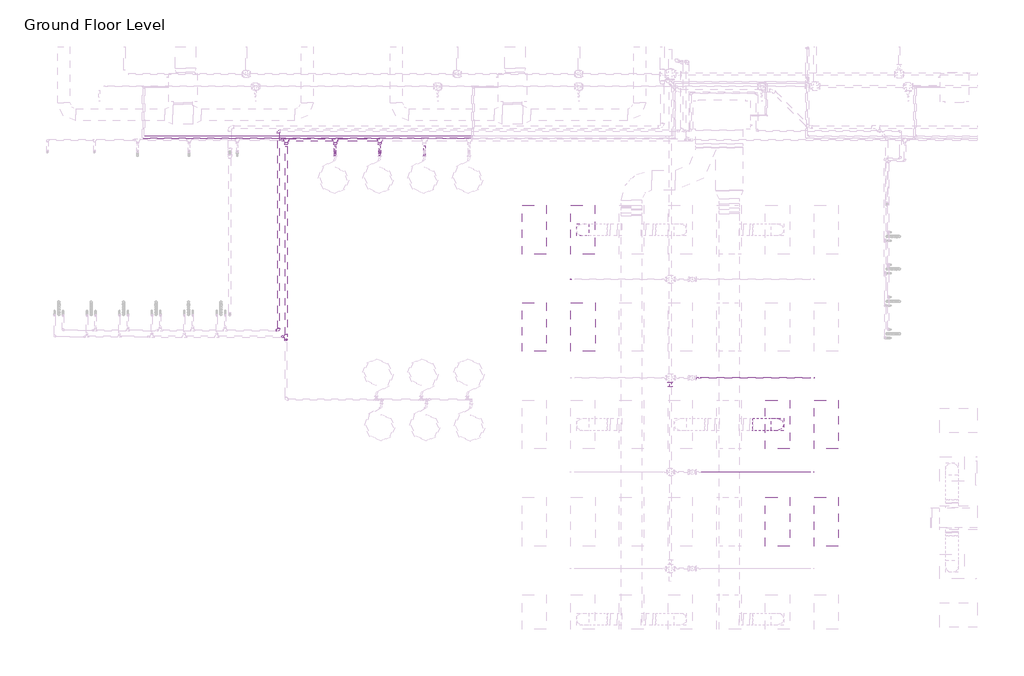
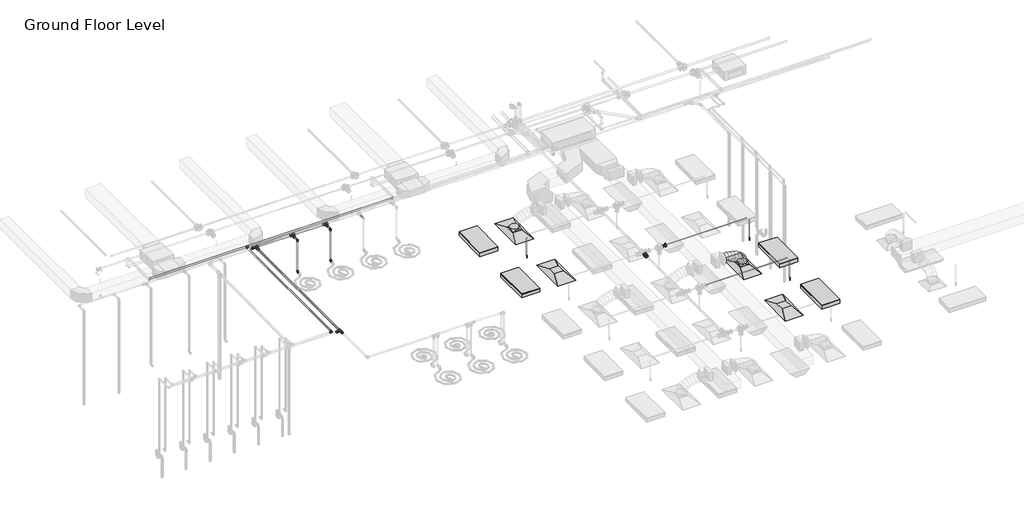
# One storey, part 47 of 73: 19 pipe segments, 18 pipe fittings, 4 air terminals, 4 light fixtures, 3 fire suppression terminals, 2 duct fittings, 1 duct segment.
"""IFC4 building model written with IfcOpenShell, lengths in millimetres."""

from ifc_helpers import new_model, si_unit, point, frame, frame_2d, origin, place, context, project, spatial, circle_curve, ellipse_curve, trimmed, segment, composite_curve, outline, extrude, transform, mapped, element, save
from ifc_brep_helpers import plane_surface, cylinder_surface, advanced_brep
from components import m_return_diffuser_1200x600_1200_x_600_face_300_x_300_d1983ef6, m_rectangular_to_round_transition_angle_45_degree_641efff0, m_sprinkler_dry_pendent_hosted_15_mm_dry_pendent_9bda8e11, m_troffer_light_parabolic_rectangular1_0600x1200mm_4_lamp_86473d4a, m_reducer_flanged_cs_class_150_standard_d42b2106, m_reducer_flanged_cs_class_150_standard_564df86d, standard_517a5a8d, standard_cd25fed3, standard_f1337950, standard_5079833c, standard_92e3b147, standard_bbae78af, standard_69e4ce0e, standard_a995ec02

model = new_model("IFC4")

# Units and contexts
model_context = context("Model", 3, world=origin())
ifc_project = project(units=[si_unit("LENGTHUNIT", "METRE", prefix="MILLI")], contexts=[model_context])

# Site, building, storey
site = spatial("IfcSite", under=ifc_project)
building = spatial("IfcBuilding", under=site)
storey = spatial("IfcBuildingStorey", under=building, Name="Ground Floor Level", Elevation=900.0)

# Air terminals
placement = place(None, origin())
m_return_diffuser_1200x600_1200_x_600_face_300_x_300_shape = m_return_diffuser_1200x600_1200_x_600_face_300_x_300_d1983ef6(model_context)
element("IfcAirTerminal", 1, ObjectType="M_Return Diffuser 1200x600 : 1200 x 600 Face 300 x 300 Connection", at=placement, inside=storey, context=model_context, shape_type="MappedRepresentation", body=[
    mapped(m_return_diffuser_1200x600_1200_x_600_face_300_x_300_shape, transform((-8137.2327605, 8835.2153534, 3650.0), x_axis=(0.0, 1.0, 0.0), y_axis=(-1.0, 0.0, 0.0), z_axis=(0.0, 0.0, 1.0))),
])
element("IfcAirTerminal", 2, ObjectType="M_Return Diffuser 1200x600 : 1200 x 600 Face 300 x 300 Connection", at=placement, inside=storey, context=model_context, shape_type="MappedRepresentation", body=[
    mapped(m_return_diffuser_1200x600_1200_x_600_face_300_x_300_shape, transform((-3337.2327605, 4035.2153534, 3650.0), x_axis=(0.0, 1.0, 0.0), y_axis=(-1.0, 0.0, 0.0), z_axis=(0.0, 0.0, 1.0))),
])
element("IfcAirTerminal", 3, ObjectType="M_Supply Diffuser 1200x600 : 1200 x 600 Face 300 x 300 Connection", at=placement, inside=storey, context=model_context, shape_type="MappedRepresentation", body=[
    mapped(m_return_diffuser_1200x600_1200_x_600_face_300_x_300_shape, transform((-8142.6846929, 11235.2153534, 3650.0), x_axis=(0.0, 1.0, 0.0), y_axis=(-1.0, 0.0, 0.0), z_axis=(0.0, 0.0, 1.0))),
])
element("IfcAirTerminal", 4, ObjectType="M_Supply Diffuser 1200x600 : 1200 x 600 Face 300 x 300 Connection", at=placement, inside=storey, context=model_context, shape_type="MappedRepresentation", body=[
    mapped(m_return_diffuser_1200x600_1200_x_600_face_300_x_300_shape, transform((-3337.2327605, 6435.2153534, 3650.0), x_axis=(0.0, 1.0, 0.0), y_axis=(-1.0, 0.0, 0.0), z_axis=(0.0, 0.0, 1.0))),
])

# Duct fittings
m_rectangular_to_round_transition_angle_45_degree_shape = m_rectangular_to_round_transition_angle_45_degree_641efff0(model_context)
element("IfcDuctFitting", 5, ObjectType="M_Rectangular to Round Transition - Angle : 45 Degree", at=placement, inside=storey, context=model_context, shape_type="MappedRepresentation", body=[
    mapped(m_rectangular_to_round_transition_angle_45_degree_shape, transform((-8142.6846929, 11235.2153534, 3751.6), x_axis=(0.0, 0.0, 1.0), y_axis=(-1.0, 0.0, 0.0), z_axis=(0.0, -1.0, 0.0))),
])
element("IfcDuctFitting", 6, ObjectType="M_Rectangular to Round Transition - Angle : 45 Degree", at=placement, inside=storey, context=model_context, shape_type="MappedRepresentation", body=[
    mapped(m_rectangular_to_round_transition_angle_45_degree_shape, transform((-3337.2327605, 6435.2153534, 3751.6), x_axis=(0.0, 0.0, 1.0), y_axis=(-1.0, 0.0, 0.0), z_axis=(0.0, -1.0, 0.0))),
])

# Duct segment
element("IfcDuctSegment", 7, ObjectType="Flex - Round", at=placement, inside=storey, context=model_context, shape_type="AdvancedBrep", body=[
    advanced_brep(
    [(-3187.2327605, 6435.2153534, 3826.6), (-3337.2327605, 6285.2153534, 3826.6), (-3487.2327605, 6435.2153534, 3826.6), (-3337.2327605, 6585.2153534, 3826.6), (-3187.2327605, 6435.2153534, 3882.1255581), (-3337.2327605, 6285.2153534, 3857.3046173), (-3487.2327605, 6435.2153534, 3832.4836764), (-3337.2327605, 6585.2153534, 3857.3046173), (-3218.4253034, 6435.2153534, 3973.7974983), (-3353.8937102, 6285.2153534, 3906.2695763), (-3489.362117, 6435.2153534, 3838.7416543), (-3353.8937102, 6585.2153534, 3906.2695763), (-3288.1573657, 6435.2153534, 4076.409352), (-3399.7704918, 6285.2153534, 3973.7779999), (-3511.3836179, 6435.2153534, 3871.1466478), (-3399.7704918, 6585.2153534, 3973.7779999), (-3386.082926, 6435.2153534, 4155.7082221), (-3468.7040039, 6285.2153534, 4029.599479), (-3551.3250817, 6435.2153534, 3903.4907359), (-3468.7040039, 6585.2153534, 4029.599479), (-3494.825089, 6435.2153534, 4212.2244369), (-3554.535145, 6285.2153534, 4074.2082221), (-3614.2452011, 6435.2153534, 3936.1920073), (-3554.535145, 6585.2153534, 4074.2082221), (-3609.1145825, 6435.2153534, 4252.3095878), (-3651.104814, 6285.2153534, 4108.0784374), (-3693.0950455, 6435.2153534, 3963.847287), (-3651.104814, 6585.2153534, 4108.0784374), (-3724.8435514, 6435.2153534, 4279.3180942), (-3752.2539093, 6285.2153534, 4131.6843333), (-3779.6642673, 6435.2153534, 3984.0505724), (-3752.2539093, 6585.2153534, 4131.6843333), (-3837.5009499, 6435.2153534, 4294.9499053), (-3851.8233297, 6285.2153534, 4145.500118), (-3866.1457095, 6435.2153534, 3996.0503308), (-3851.8233297, 6585.2153534, 4145.500118), (-3932.3208261, 6435.2153534, 4300.0), (-3936.312488, 6285.2153534, 4150.0), (-3940.3041499, 6435.2153534, 4000.0), (-3936.312488, 6585.2153534, 4150.0), (-3943.6539738, 6435.2153534, 4300.0), (-3943.6539738, 6585.2153534, 4150.0), (-3943.6539738, 6435.2153534, 4000.0), (-3943.6539738, 6285.2153534, 4150.0)],
    [
        (0, 1, circle_curve(frame((-3337.2327605, 6435.2153534, 3826.6), z_axis=(0.0, 0.0, -1.0), x_axis=(1.0, 0.0, 0.0)), 150.0)),
        (1, 2, circle_curve(frame((-3337.2327605, 6435.2153534, 3826.6), z_axis=(0.0, 0.0, -1.0), x_axis=(1.0, 0.0, 0.0)), 150.0)),
        (2, 3, circle_curve(frame((-3337.2327605, 6435.2153534, 3826.6), z_axis=(0.0, 0.0, -1.0), x_axis=(1.0, 0.0, 0.0)), 150.0)),
        (3, 0, circle_curve(frame((-3337.2327605, 6435.2153534, 3826.6), z_axis=(0.0, 0.0, -1.0), x_axis=(1.0, 0.0, 0.0)), 150.0)),
        (0, 4),
        (4, 5, ellipse_curve(frame((-3337.2327605, 6435.2153534, 3857.3046173), z_axis=(0.16325299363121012, 0.0, -0.9865842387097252), x_axis=(-0.9865842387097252, 0.0, -0.16325299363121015)), 152.0397287, 150.0)),
        (5, 1),
        (5, 6, ellipse_curve(frame((-3337.2327605, 6435.2153534, 3857.3046173), z_axis=(0.16325299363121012, 0.0, -0.9865842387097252), x_axis=(-0.9865842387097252, 0.0, -0.16325299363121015)), 152.0397287, 150.0)),
        (6, 2),
        (6, 7, ellipse_curve(frame((-3337.2327605, 6435.2153534, 3857.3046173), z_axis=(0.16325299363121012, 0.0, -0.9865842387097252), x_axis=(-0.9865842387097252, 0.0, -0.16325299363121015)), 152.0397287, 150.0)),
        (7, 3),
        (7, 4, ellipse_curve(frame((-3337.2327605, 6435.2153534, 3857.3046173), z_axis=(0.16325299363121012, 0.0, -0.9865842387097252), x_axis=(-0.9865842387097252, 0.0, -0.16325299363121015)), 152.0397287, 150.0)),
        (4, 8),
        (8, 9, ellipse_curve(frame((-3353.8937102, 6435.2153534, 3906.2695763), z_axis=(0.446123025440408, 0.0, -0.894971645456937), x_axis=(-0.8949716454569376, 0.0, -0.44612302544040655)), 151.3661438, 150.0)),
        (9, 5),
        (9, 10, ellipse_curve(frame((-3353.8937102, 6435.2153534, 3906.2695763), z_axis=(0.446123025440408, 0.0, -0.894971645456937), x_axis=(-0.8949716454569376, 0.0, -0.44612302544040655)), 151.3661438, 150.0)),
        (10, 6),
        (10, 11, ellipse_curve(frame((-3353.8937102, 6435.2153534, 3906.2695763), z_axis=(0.446123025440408, 0.0, -0.894971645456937), x_axis=(-0.8949716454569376, 0.0, -0.44612302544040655)), 151.3661438, 150.0)),
        (11, 7),
        (11, 8, ellipse_curve(frame((-3353.8937102, 6435.2153534, 3906.2695763), z_axis=(0.446123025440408, 0.0, -0.894971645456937), x_axis=(-0.8949716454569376, 0.0, -0.44612302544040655)), 151.3661438, 150.0)),
        (8, 12),
        (12, 13, ellipse_curve(frame((-3399.7704918, 6435.2153534, 3973.7779999), z_axis=(0.6768681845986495, 0.0, -0.7361042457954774), x_axis=(-0.7361042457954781, 0.0, -0.6768681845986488)), 151.626793, 150.0)),
        (13, 9),
        (13, 14, ellipse_curve(frame((-3399.7704918, 6435.2153534, 3973.7779999), z_axis=(0.6768681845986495, 0.0, -0.7361042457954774), x_axis=(-0.7361042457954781, 0.0, -0.6768681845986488)), 151.626793, 150.0)),
        (14, 10),
        (14, 15, ellipse_curve(frame((-3399.7704918, 6435.2153534, 3973.7779999), z_axis=(0.6768681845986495, 0.0, -0.7361042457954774), x_axis=(-0.7361042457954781, 0.0, -0.6768681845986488)), 151.626793, 150.0)),
        (15, 11),
        (15, 12, ellipse_curve(frame((-3399.7704918, 6435.2153534, 3973.7779999), z_axis=(0.6768681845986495, 0.0, -0.7361042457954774), x_axis=(-0.7361042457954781, 0.0, -0.6768681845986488)), 151.626793, 150.0)),
        (12, 16),
        (16, 17, ellipse_curve(frame((-3468.7040039, 6435.2153534, 4029.599479), z_axis=(0.8364668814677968, 0.0, -0.5480174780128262), x_axis=(-0.5480174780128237, 0.0, -0.8364668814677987)), 150.7635818, 150.0)),
        (17, 13),
        (17, 18, ellipse_curve(frame((-3468.7040039, 6435.2153534, 4029.599479), z_axis=(0.8364668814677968, 0.0, -0.5480174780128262), x_axis=(-0.5480174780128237, 0.0, -0.8364668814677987)), 150.7635818, 150.0)),
        (18, 14),
        (18, 19, ellipse_curve(frame((-3468.7040039, 6435.2153534, 4029.599479), z_axis=(0.8364668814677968, 0.0, -0.5480174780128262), x_axis=(-0.5480174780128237, 0.0, -0.8364668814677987)), 150.7635818, 150.0)),
        (19, 15),
        (19, 16, ellipse_curve(frame((-3468.7040039, 6435.2153534, 4029.599479), z_axis=(0.8364668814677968, 0.0, -0.5480174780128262), x_axis=(-0.5480174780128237, 0.0, -0.8364668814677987)), 150.7635818, 150.0)),
        (16, 20),
        (20, 21, ellipse_curve(frame((-3554.535145, 6435.2153534, 4074.2082221), z_axis=(0.9177907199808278, 0.0, -0.3970644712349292), x_axis=(-0.3970644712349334, 0.0, -0.917790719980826)), 150.378743, 150.0)),
        (21, 17),
        (21, 22, ellipse_curve(frame((-3554.535145, 6435.2153534, 4074.2082221), z_axis=(0.9177907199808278, 0.0, -0.3970644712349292), x_axis=(-0.3970644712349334, 0.0, -0.917790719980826)), 150.378743, 150.0)),
        (22, 18),
        (22, 23, ellipse_curve(frame((-3554.535145, 6435.2153534, 4074.2082221), z_axis=(0.9177907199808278, 0.0, -0.3970644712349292), x_axis=(-0.3970644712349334, 0.0, -0.917790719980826)), 150.378743, 150.0)),
        (23, 19),
        (23, 20, ellipse_curve(frame((-3554.535145, 6435.2153534, 4074.2082221), z_axis=(0.9177907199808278, 0.0, -0.3970644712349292), x_axis=(-0.3970644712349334, 0.0, -0.917790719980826)), 150.378743, 150.0)),
        (20, 24),
        (24, 25, ellipse_curve(frame((-3651.104814, 6435.2153534, 4108.0784374), z_axis=(0.9601380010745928, 0.0, -0.2795264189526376), x_axis=(-0.2795264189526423, 0.0, -0.9601380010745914)), 150.2191875, 150.0)),
        (25, 21),
        (25, 26, ellipse_curve(frame((-3651.104814, 6435.2153534, 4108.0784374), z_axis=(0.9601380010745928, 0.0, -0.2795264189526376), x_axis=(-0.2795264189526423, 0.0, -0.9601380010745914)), 150.2191875, 150.0)),
        (26, 22),
        (26, 27, ellipse_curve(frame((-3651.104814, 6435.2153534, 4108.0784374), z_axis=(0.9601380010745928, 0.0, -0.2795264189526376), x_axis=(-0.2795264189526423, 0.0, -0.9601380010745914)), 150.2191875, 150.0)),
        (27, 23),
        (27, 24, ellipse_curve(frame((-3651.104814, 6435.2153534, 4108.0784374), z_axis=(0.9601380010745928, 0.0, -0.2795264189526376), x_axis=(-0.2795264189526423, 0.0, -0.9601380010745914)), 150.2191875, 150.0)),
        (24, 28),
        (28, 29, ellipse_curve(frame((-3752.2539093, 6435.2153534, 4131.6843333), z_axis=(0.9831975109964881, 0.0, -0.18254493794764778), x_axis=(-0.18254493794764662, 0.0, -0.9831975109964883)), 150.1567684, 150.0)),
        (29, 25),
        (29, 30, ellipse_curve(frame((-3752.2539093, 6435.2153534, 4131.6843333), z_axis=(0.9831975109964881, 0.0, -0.18254493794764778), x_axis=(-0.18254493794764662, 0.0, -0.9831975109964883)), 150.1567684, 150.0)),
        (30, 26),
        (30, 31, ellipse_curve(frame((-3752.2539093, 6435.2153534, 4131.6843333), z_axis=(0.9831975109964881, 0.0, -0.18254493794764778), x_axis=(-0.18254493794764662, 0.0, -0.9831975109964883)), 150.1567684, 150.0)),
        (31, 27),
        (31, 28, ellipse_curve(frame((-3752.2539093, 6435.2153534, 4131.6843333), z_axis=(0.9831975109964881, 0.0, -0.18254493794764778), x_axis=(-0.18254493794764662, 0.0, -0.9831975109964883)), 150.1567684, 150.0)),
        (28, 32),
        (32, 33, ellipse_curve(frame((-3851.8233297, 6435.2153534, 4145.500118), z_axis=(0.9954393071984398, 0.0, -0.09539698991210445), x_axis=(-0.09539698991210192, 0.0, -0.99543930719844)), 150.1345046, 150.0)),
        (33, 29),
        (33, 34, ellipse_curve(frame((-3851.8233297, 6435.2153534, 4145.500118), z_axis=(0.9954393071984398, 0.0, -0.09539698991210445), x_axis=(-0.09539698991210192, 0.0, -0.99543930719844)), 150.1345046, 150.0)),
        (34, 30),
        (34, 35, ellipse_curve(frame((-3851.8233297, 6435.2153534, 4145.500118), z_axis=(0.9954393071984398, 0.0, -0.09539698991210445), x_axis=(-0.09539698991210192, 0.0, -0.99543930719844)), 150.1345046, 150.0)),
        (35, 31),
        (35, 32, ellipse_curve(frame((-3851.8233297, 6435.2153534, 4145.500118), z_axis=(0.9954393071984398, 0.0, -0.09539698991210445), x_axis=(-0.09539698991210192, 0.0, -0.99543930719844)), 150.1345046, 150.0)),
        (32, 36),
        (36, 37, ellipse_curve(frame((-3936.312488, 6435.2153534, 4150.0), z_axis=(0.9996461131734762, 0.0, -0.02660166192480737), x_axis=(-0.026601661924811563, 0.0, -0.9996461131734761)), 150.0531018, 150.0)),
        (37, 33),
        (37, 38, ellipse_curve(frame((-3936.312488, 6435.2153534, 4150.0), z_axis=(0.9996461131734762, 0.0, -0.02660166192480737), x_axis=(-0.026601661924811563, 0.0, -0.9996461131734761)), 150.0531018, 150.0)),
        (38, 34),
        (38, 39, ellipse_curve(frame((-3936.312488, 6435.2153534, 4150.0), z_axis=(0.9996461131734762, 0.0, -0.02660166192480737), x_axis=(-0.026601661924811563, 0.0, -0.9996461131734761)), 150.0531018, 150.0)),
        (39, 35),
        (39, 36, ellipse_curve(frame((-3936.312488, 6435.2153534, 4150.0), z_axis=(0.9996461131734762, 0.0, -0.02660166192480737), x_axis=(-0.026601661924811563, 0.0, -0.9996461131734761)), 150.0531018, 150.0)),
        (40, 41, circle_curve(frame((-3943.6539738, 6435.2153534, 4150.0), z_axis=(-1.0, 0.0, 0.0), x_axis=(0.0, 0.0, 1.0)), 150.0)),
        (41, 42, circle_curve(frame((-3943.6539738, 6435.2153534, 4150.0), z_axis=(-1.0, 0.0, 0.0), x_axis=(0.0, 0.0, 1.0)), 150.0)),
        (42, 43, circle_curve(frame((-3943.6539738, 6435.2153534, 4150.0), z_axis=(-1.0, 0.0, 0.0), x_axis=(0.0, 0.0, 1.0)), 150.0)),
        (43, 40, circle_curve(frame((-3943.6539738, 6435.2153534, 4150.0), z_axis=(-1.0, 0.0, 0.0), x_axis=(0.0, 0.0, 1.0)), 150.0)),
        (36, 40),
        (43, 37),
        (42, 38),
        (41, 39),
    ],
    [
        plane_surface(frame((-3337.2327605, 6285.2153534, 3826.6), z_axis=(0.0, 0.0, -1.0), x_axis=(1.0, 0.0, 0.0))),
        cylinder_surface(frame((-3337.2327605, 6435.2153534, 3826.6), z_axis=(0.0, 0.0, -1.0), x_axis=(1.0, 0.0, 0.0)), 150.0),
        cylinder_surface(frame((-3337.2327605, 6435.2153534, 3857.3046173), z_axis=(0.3221256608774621, 0.0, -0.9466969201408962), x_axis=(0.9466969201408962, 0.0, 0.3221256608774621)), 150.0),
        cylinder_surface(frame((-3353.8937102, 6435.2153534, 3906.2695763), z_axis=(0.5620674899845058, 0.0, -0.8270913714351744), x_axis=(0.8270913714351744, 0.0, 0.5620674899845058)), 150.0),
        cylinder_surface(frame((-3399.7704918, 6435.2153534, 3973.7779999), z_axis=(0.7771447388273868, 0.0, -0.6293219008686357), x_axis=(0.6293219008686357, 0.0, 0.7771447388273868)), 150.0),
        cylinder_surface(frame((-3468.7040039, 6435.2153534, 4029.599479), z_axis=(0.8873160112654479, 0.0, -0.4611618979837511), x_axis=(0.4611618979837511, 0.0, 0.8873160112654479)), 150.0),
        cylinder_surface(frame((-3554.535145, 6435.2153534, 4074.2082221), z_axis=(0.9436423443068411, 0.0, -0.3309669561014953), x_axis=(0.3309669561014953, 0.0, 0.9436423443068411)), 150.0),
        cylinder_surface(frame((-3651.104814, 6435.2153534, 4108.0784374), z_axis=(0.973831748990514, 0.0, -0.22727015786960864), x_axis=(0.22727015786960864, 0.0, 0.973831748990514)), 150.0),
        cylinder_surface(frame((-3752.2539093, 6435.2153534, 4131.6843333), z_axis=(0.9905102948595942, 0.0, -0.1374385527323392), x_axis=(0.1374385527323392, 0.0, 0.9905102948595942)), 150.0),
        cylinder_surface(frame((-3851.8233297, 6435.2153534, 4145.500118), z_axis=(0.9985847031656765, 0.0, -0.05318449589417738), x_axis=(0.05318449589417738, 0.0, 0.9985847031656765)), 150.0),
        plane_surface(frame((-3943.6539738, 6435.2153534, 4000.0), z_axis=(-1.0, 0.0, 0.0), x_axis=(0.0, -1.0, 0.0))),
        cylinder_surface(frame((-3936.312488, 6435.2153534, 4150.0), z_axis=(1.0, 0.0, 0.0), x_axis=(0.0, 0.0, 1.0)), 150.0),
    ],
    [
        (0, [[1, 2, 3, 4]]),
        (1, [[-1, 5, 6, 7]]),
        (1, [[-2, -7, 8, 9]]),
        (1, [[-3, -9, 10, 11]]),
        (1, [[-4, -11, 12, -5]]),
        (2, [[-6, 13, 14, 15]]),
        (2, [[-8, -15, 16, 17]]),
        (2, [[-10, -17, 18, 19]]),
        (2, [[-12, -19, 20, -13]]),
        (3, [[-14, 21, 22, 23]]),
        (3, [[-16, -23, 24, 25]]),
        (3, [[-18, -25, 26, 27]]),
        (3, [[-20, -27, 28, -21]]),
        (4, [[-22, 29, 30, 31]]),
        (4, [[-24, -31, 32, 33]]),
        (4, [[-26, -33, 34, 35]]),
        (4, [[-28, -35, 36, -29]]),
        (5, [[-30, 37, 38, 39]]),
        (5, [[-32, -39, 40, 41]]),
        (5, [[-34, -41, 42, 43]]),
        (5, [[-36, -43, 44, -37]]),
        (6, [[-38, 45, 46, 47]]),
        (6, [[-40, -47, 48, 49]]),
        (6, [[-42, -49, 50, 51]]),
        (6, [[-44, -51, 52, -45]]),
        (7, [[-46, 53, 54, 55]]),
        (7, [[-48, -55, 56, 57]]),
        (7, [[-50, -57, 58, 59]]),
        (7, [[-52, -59, 60, -53]]),
        (8, [[-54, 61, 62, 63]]),
        (8, [[-56, -63, 64, 65]]),
        (8, [[-58, -65, 66, 67]]),
        (8, [[-60, -67, 68, -61]]),
        (9, [[-62, 69, 70, 71]]),
        (9, [[-64, -71, 72, 73]]),
        (9, [[-66, -73, 74, 75]]),
        (9, [[-68, -75, 76, -69]]),
        (10, [[77, 78, 79, 80]]),
        (11, [[-70, 81, -80, 82]]),
        (11, [[-72, -82, -79, 83]]),
        (11, [[-74, -83, -78, 84]]),
        (11, [[-76, -84, -77, -81]]),
    ],
),
])

# Fire suppression terminals
m_sprinkler_dry_pendent_hosted_15_mm_dry_pendent_shape = m_sprinkler_dry_pendent_hosted_15_mm_dry_pendent_9bda8e11(model_context)
element("IfcFireSuppressionTerminal", 8, ObjectType="M_Sprinkler - Dry - Pendent - Hosted : 15 mm Dry Pendent", at=placement, inside=storey, context=model_context, shape_type="MappedRepresentation", body=[
    mapped(m_sprinkler_dry_pendent_hosted_15_mm_dry_pendent_shape, transform((-8437.2327605, 10013.008259, 3650.0), x_axis=(1.0, 0.0, 0.0), y_axis=(0.0, -1.0, 0.0), z_axis=(0.0, 0.0, -1.0))),
])
element("IfcFireSuppressionTerminal", 9, ObjectType="M_Sprinkler - Dry - Pendent - Hosted : 15 mm Dry Pendent", at=placement, inside=storey, context=model_context, shape_type="MappedRepresentation", body=[
    mapped(m_sprinkler_dry_pendent_hosted_15_mm_dry_pendent_shape, transform((-2437.2327605, 7582.7040742, 3650.0), x_axis=(1.0, 0.0, 0.0), y_axis=(0.0, -1.0, 0.0), z_axis=(0.0, 0.0, -1.0))),
])
element("IfcFireSuppressionTerminal", 10, ObjectType="M_Sprinkler - Dry - Pendent - Hosted : 15 mm Dry Pendent", at=placement, inside=storey, context=model_context, shape_type="MappedRepresentation", body=[
    mapped(m_sprinkler_dry_pendent_hosted_15_mm_dry_pendent_shape, transform((-2437.2327605, 5261.0372753, 3650.0), x_axis=(1.0, 0.0, 0.0), y_axis=(0.0, -1.0, 0.0), z_axis=(0.0, 0.0, -1.0))),
])

# Light fixtures
m_troffer_light_parabolic_rectangular1_0600x1200mm_4_lamp_shape = m_troffer_light_parabolic_rectangular1_0600x1200mm_4_lamp_86473d4a(model_context)
element("IfcLightFixture", 11, ObjectType="M_Troffer Light - Parabolic Rectangular1 : 0600x1200mm(4 Lamp) - 277V 2", at=placement, inside=storey, context=model_context, shape_type="MappedRepresentation", body=[
    mapped(m_troffer_light_parabolic_rectangular1_0600x1200mm_4_lamp_shape, transform((-9396.6986926, 11253.918855, 3650.0), x_axis=(0.0, 1.0, 0.0), y_axis=(-1.0, 0.0, 0.0), z_axis=(0.0, 0.0, 1.0))),
])
element("IfcLightFixture", 12, ObjectType="M_Troffer Light - Parabolic Rectangular1 : 0600x1200mm(4 Lamp) - 277V 2", at=placement, inside=storey, context=model_context, shape_type="MappedRepresentation", body=[
    mapped(m_troffer_light_parabolic_rectangular1_0600x1200mm_4_lamp_shape, transform((-9396.6986926, 8853.918855, 3650.0), x_axis=(0.0, 1.0, 0.0), y_axis=(-1.0, 0.0, 0.0), z_axis=(0.0, 0.0, 1.0))),
])
element("IfcLightFixture", 13, ObjectType="M_Troffer Light - Parabolic Rectangular1 : 0600x1200mm(4 Lamp) - 277V 2", at=placement, inside=storey, context=model_context, shape_type="MappedRepresentation", body=[
    mapped(m_troffer_light_parabolic_rectangular1_0600x1200mm_4_lamp_shape, transform((-2196.6986926, 6453.918855, 3650.0), x_axis=(0.0, 1.0, 0.0), y_axis=(-1.0, 0.0, 0.0), z_axis=(0.0, 0.0, 1.0))),
])
element("IfcLightFixture", 14, ObjectType="M_Troffer Light - Parabolic Rectangular1 : 0600x1200mm(4 Lamp) - 277V 2", at=placement, inside=storey, context=model_context, shape_type="MappedRepresentation", body=[
    mapped(m_troffer_light_parabolic_rectangular1_0600x1200mm_4_lamp_shape, transform((-2196.6986926, 4053.918855, 3650.0), x_axis=(0.0, 1.0, 0.0), y_axis=(-1.0, 0.0, 0.0), z_axis=(0.0, 0.0, 1.0))),
])

# Pipe fittings
m_reducer_flanged_cs_class_150_standard_shape = m_reducer_flanged_cs_class_150_standard_d42b2106(model_context)
element("IfcPipeFitting", 15, ObjectType="M_Reducer - Flanged - CS - Class 150 : Standard", at=placement, inside=storey, context=model_context, shape_type="MappedRepresentation", body=[
    mapped(m_reducer_flanged_cs_class_150_standard_shape, transform((-5336.5241668, 7582.7040742, 4360.0), x_axis=(1.0, 0.0, 0.0), y_axis=(0.0, 1.0, 0.0), z_axis=(0.0, 0.0, 1.0))),
])
m_reducer_flanged_cs_class_150_standard_2_shape = m_reducer_flanged_cs_class_150_standard_564df86d(model_context)
element("IfcPipeFitting", 16, ObjectType="M_Reducer - Flanged - CS - Class 150 : Standard", at=placement, inside=storey, context=model_context, shape_type="MappedRepresentation", body=[
    mapped(m_reducer_flanged_cs_class_150_standard_2_shape, transform((-5978.130502, 7480.7040742, 4360.0), x_axis=(0.0, -1.0, 0.0), y_axis=(1.0, 0.0, 0.0), z_axis=(0.0, 0.0, 1.0))),
])
standard_shape = standard_517a5a8d(model_context)
element("IfcPipeFitting", 17, ObjectType="M_Elbow - CPVC - Sch 40 : Standard", at=placement, inside=storey, context=model_context, shape_type="MappedRepresentation", body=[
    mapped(standard_shape, transform((-14247.2327605, 13150.8347997, 3200.0), x_axis=(0.0, 1.0, 0.0), y_axis=(0.0, 0.0, 1.0), z_axis=(1.0, 0.0, 0.0))),
])
element("IfcPipeFitting", 18, ObjectType="M_Elbow - CPVC - Sch 40 : Standard", at=placement, inside=storey, context=model_context, shape_type="MappedRepresentation", body=[
    mapped(standard_shape, transform((-14247.2327605, 13150.8347997, 4315.0), x_axis=(0.0, 0.0, 1.0), y_axis=(0.0, 1.0, 0.0), z_axis=(-1.0, 0.0, 0.0))),
])
element("IfcPipeFitting", 19, ObjectType="M_Elbow - CPVC - Sch 40 : Standard", at=placement, inside=storey, context=model_context, shape_type="MappedRepresentation", body=[
    mapped(standard_shape, transform((-13147.2327605, 13150.8347997, 4315.0), x_axis=(0.0, 0.0, 1.0), y_axis=(0.0, 1.0, 0.0), z_axis=(-1.0, 0.0, 0.0))),
])
element("IfcPipeFitting", 20, ObjectType="M_Elbow - CPVC - Sch 40 : Standard", at=placement, inside=storey, context=model_context, shape_type="MappedRepresentation", body=[
    mapped(standard_shape, transform((-13147.2327605, 13150.8347997, 3200.0), x_axis=(0.0, 0.0, -1.0), y_axis=(0.0, -1.0, 0.0), z_axis=(-1.0, 0.0, 0.0))),
])
standard_2_shape = standard_cd25fed3(model_context)
element("IfcPipeFitting", 21, ObjectType="M_Tee - CPVC - Sch 40 : Standard", at=placement, inside=storey, context=model_context, shape_type="MappedRepresentation", body=[
    mapped(standard_2_shape, transform((-14247.2327605, 13449.9865561, 4315.0), x_axis=(-1.0, 0.0, 0.0), y_axis=(0.0, 1.0, 0.0), z_axis=(0.0, 0.0, -1.0))),
])
element("IfcPipeFitting", 22, ObjectType="M_Tee - CPVC - Sch 40 : Standard", at=placement, inside=storey, context=model_context, shape_type="MappedRepresentation", body=[
    mapped(standard_2_shape, transform((-13147.2327605, 13449.9865561, 4315.0), x_axis=(-1.0, 0.0, 0.0), y_axis=(0.0, 1.0, 0.0), z_axis=(0.0, 0.0, -1.0))),
])
element("IfcPipeFitting", 23, ObjectType="M_Tee - CPVC - Sch 40 : Standard", at=placement, inside=storey, context=model_context, shape_type="MappedRepresentation", body=[
    mapped(standard_2_shape, transform((-15455.6408298, 13449.9865561, 4315.0), x_axis=(-1.0, 0.0, 0.0), y_axis=(0.0, 1.0, 0.0), z_axis=(0.0, 0.0, -1.0))),
])
standard_3_shape = standard_f1337950(model_context)
element("IfcPipeFitting", 24, ObjectType="M_Coupling Reducing - CPVC - Sch 40 : Standard", at=placement, inside=storey, context=model_context, shape_type="MappedRepresentation", body=[
    mapped(standard_3_shape, transform((-14247.2327605, 13383.3115561, 4315.0), x_axis=(0.0, -1.0, 0.0), y_axis=(1.0, 0.0, 0.0), z_axis=(0.0, 0.0, 1.0))),
])
element("IfcPipeFitting", 25, ObjectType="M_Coupling Reducing - CPVC - Sch 40 : Standard", at=placement, inside=storey, context=model_context, shape_type="MappedRepresentation", body=[
    mapped(standard_3_shape, transform((-13147.2327605, 13383.3115561, 4315.0), x_axis=(0.0, -1.0, 0.0), y_axis=(1.0, 0.0, 0.0), z_axis=(0.0, 0.0, 1.0))),
])
standard_4_shape = standard_5079833c(model_context)
element("IfcPipeFitting", 26, ObjectType="M_Coupling Reducing - CPVC - Sch 40 : Standard", at=placement, inside=storey, context=model_context, shape_type="MappedRepresentation", body=[
    mapped(standard_4_shape, transform((-15522.3158298, 13449.9865561, 4315.0), x_axis=(-1.0, 0.0, 0.0), y_axis=(0.0, -1.0, 0.0), z_axis=(0.0, 0.0, 1.0))),
])
standard_5_shape = standard_92e3b147(model_context)
element("IfcPipeFitting", 27, ObjectType="M_Coupling Reducing - CPVC - Sch 40 : Standard", at=placement, inside=storey, context=model_context, shape_type="MappedRepresentation", body=[
    mapped(standard_5_shape, transform((-15455.6408298, 13383.3115561, 4315.0), x_axis=(0.0, -1.0, 0.0), y_axis=(1.0, 0.0, 0.0), z_axis=(0.0, 0.0, 1.0))),
])
standard_6_shape = standard_bbae78af(model_context)
element("IfcPipeFitting", 28, ObjectType="M_Tee - CPVC - Sch 40 : Standard", at=placement, inside=storey, context=model_context, shape_type="MappedRepresentation", body=[
    mapped(standard_6_shape, transform((-15455.6408298, 8599.9071734, 4315.0), x_axis=(0.0, 1.0, 0.0), y_axis=(1.0, 0.0, 0.0), z_axis=(0.0, 0.0, -1.0))),
])
standard_7_shape = standard_69e4ce0e(model_context)
element("IfcPipeFitting", 29, ObjectType="M_Elbow - CPVC - Sch 40 : Standard", at=placement, inside=storey, context=model_context, shape_type="MappedRepresentation", body=[
    mapped(standard_7_shape, transform((-15642.8173674, 8755.2153534, 4250.0), x_axis=(1.0, 0.0, 0.0), y_axis=(0.0, 1.0, 0.0), z_axis=(0.0, 0.0, 1.0))),
])
element("IfcPipeFitting", 30, ObjectType="M_Elbow - CPVC - Sch 40 : Standard", at=placement, inside=storey, context=model_context, shape_type="MappedRepresentation", body=[
    mapped(standard_7_shape, transform((-15642.8173674, 13675.2153534, 4250.0), x_axis=(-1.0, 0.0, 0.0), y_axis=(0.0, -1.0, 0.0), z_axis=(0.0, 0.0, 1.0))),
])
standard_8_shape = standard_a995ec02(model_context)
element("IfcPipeFitting", 31, ObjectType="M_Coupling Reducing - CPVC - Sch 40 : Standard", at=placement, inside=storey, context=model_context, shape_type="MappedRepresentation", body=[
    mapped(standard_8_shape, transform((-15455.6408298, 8541.1569734, 4315.0), x_axis=(0.0, -1.0, 0.0), y_axis=(1.0, 0.0, 0.0), z_axis=(0.0, 0.0, 1.0))),
])
element("IfcPipeFitting", 32, ObjectType="M_Coupling Reducing - CPVC - Sch 40 : Standard", at=placement, inside=storey, context=model_context, shape_type="MappedRepresentation", body=[
    mapped(standard_8_shape, transform((-15514.3910298, 8599.9071734, 4315.0), x_axis=(-1.0, 0.0, 0.0), y_axis=(0.0, -1.0, 0.0), z_axis=(0.0, 0.0, 1.0))),
])

# Pipe segments
element("IfcPipeSegment", 33, ObjectType="CPVC", at=placement, inside=storey, context=model_context, shape_type="SweptSolid", body=[
    extrude(outline(composite_curve([segment(trimmed(circle_curve(frame_2d((3200.0, -14247.2327605)), 16.7005), [point((3200.0, -14230.5322605))], [point((3216.7005, -14247.2327605))], False, "CARTESIAN"), True, "CONTINUOUS"), segment(trimmed(circle_curve(frame_2d((3200.0, -14247.2327605)), 16.7005), [point((3216.7005, -14247.2327605))], [point((3200.0, -14263.9332605))], False, "CARTESIAN"), True, "CONTINUOUS"), segment(trimmed(circle_curve(frame_2d((3200.0, -14247.2327605)), 16.7005), [point((3200.0, -14263.9332605))], [point((3183.2995, -14247.2327605))], False, "CARTESIAN"), True, "CONTINUOUS"), segment(trimmed(circle_curve(frame_2d((3200.0, -14247.2327605)), 16.7005), [point((3183.2995, -14247.2327605))], [point((3200.0, -14230.5322605))], False, "CARTESIAN"), True, "CONTINUOUS")], self_intersect=False)), frame((0.0, 13056.8347997, 0.0), z_axis=(0.0, 1.0, 0.0), x_axis=(0.0, 0.0, 1.0)), (0.0, 0.0, 1.0), 50.73745),
])
element("IfcPipeSegment", 34, ObjectType="CPVC", at=placement, inside=storey, context=model_context, shape_type="SweptSolid", body=[
    extrude(outline(composite_curve([segment(trimmed(circle_curve(frame_2d((4315.0, -14247.2327605)), 16.7005), [point((4315.0, -14230.5322605))], [point((4331.7005, -14247.2327605))], False, "CARTESIAN"), True, "CONTINUOUS"), segment(trimmed(circle_curve(frame_2d((4315.0, -14247.2327605)), 16.7005), [point((4331.7005, -14247.2327605))], [point((4315.0, -14263.9332605))], False, "CARTESIAN"), True, "CONTINUOUS"), segment(trimmed(circle_curve(frame_2d((4315.0, -14247.2327605)), 16.7005), [point((4315.0, -14263.9332605))], [point((4298.2995, -14247.2327605))], False, "CARTESIAN"), True, "CONTINUOUS"), segment(trimmed(circle_curve(frame_2d((4315.0, -14247.2327605)), 16.7005), [point((4298.2995, -14247.2327605))], [point((4315.0, -14230.5322605))], False, "CARTESIAN"), True, "CONTINUOUS")], self_intersect=False)), frame((0.0, 13194.0973497, 0.0), z_axis=(0.0, 1.0, 0.0), x_axis=(0.0, 0.0, 1.0)), (0.0, 0.0, 1.0), 109.4153315),
])
element("IfcPipeSegment", 35, ObjectType="CPVC", at=placement, inside=storey, context=model_context, shape_type="SweptSolid", body=[
    extrude(outline(composite_curve([segment(trimmed(circle_curve(frame_2d((-14247.2327605, 13150.8347997)), 16.7005), [point((-14263.9332605, 13150.8347997))], [point((-14247.2327605, 13167.5352997))], False, "CARTESIAN"), True, "CONTINUOUS"), segment(trimmed(circle_curve(frame_2d((-14247.2327605, 13150.8347997)), 16.7005), [point((-14247.2327605, 13167.5352997))], [point((-14230.5322605, 13150.8347997))], False, "CARTESIAN"), True, "CONTINUOUS"), segment(trimmed(circle_curve(frame_2d((-14247.2327605, 13150.8347997)), 16.7005), [point((-14230.5322605, 13150.8347997))], [point((-14247.2327605, 13134.1342997))], False, "CARTESIAN"), True, "CONTINUOUS"), segment(trimmed(circle_curve(frame_2d((-14247.2327605, 13150.8347997)), 16.7005), [point((-14247.2327605, 13134.1342997))], [point((-14263.9332605, 13150.8347997))], False, "CARTESIAN"), True, "CONTINUOUS")], self_intersect=False)), frame((0.0, 0.0, 3243.26255), z_axis=(0.0, 0.0, 1.0), x_axis=(1.0, 0.0, 0.0)), (0.0, 0.0, 1.0), 1028.4749),
])
element("IfcPipeSegment", 36, ObjectType="CPVC", at=placement, inside=storey, context=model_context, shape_type="SweptSolid", body=[
    extrude(outline(composite_curve([segment(trimmed(circle_curve(frame_2d((3200.0, -13147.2327605)), 16.7005), [point((3200.0, -13163.9332605))], [point((3183.2995, -13147.2327605))], False, "CARTESIAN"), True, "CONTINUOUS"), segment(trimmed(circle_curve(frame_2d((3200.0, -13147.2327605)), 16.7005), [point((3183.2995, -13147.2327605))], [point((3200.0, -13130.5322605))], False, "CARTESIAN"), True, "CONTINUOUS"), segment(trimmed(circle_curve(frame_2d((3200.0, -13147.2327605)), 16.7005), [point((3200.0, -13130.5322605))], [point((3216.7005, -13147.2327605))], False, "CARTESIAN"), True, "CONTINUOUS"), segment(trimmed(circle_curve(frame_2d((3200.0, -13147.2327605)), 16.7005), [point((3216.7005, -13147.2327605))], [point((3200.0, -13163.9332605))], False, "CARTESIAN"), True, "CONTINUOUS")], self_intersect=False)), frame((0.0, 13056.8347997, 0.0), z_axis=(0.0, 1.0, 0.0), x_axis=(0.0, 0.0, 1.0)), (0.0, 0.0, 1.0), 50.73745),
])
element("IfcPipeSegment", 37, ObjectType="CPVC", at=placement, inside=storey, context=model_context, shape_type="SweptSolid", body=[
    extrude(outline(composite_curve([segment(trimmed(circle_curve(frame_2d((4315.0, -13147.2327605)), 16.7005), [point((4315.0, -13130.5322605))], [point((4331.7005, -13147.2327605))], False, "CARTESIAN"), True, "CONTINUOUS"), segment(trimmed(circle_curve(frame_2d((4315.0, -13147.2327605)), 16.7005), [point((4331.7005, -13147.2327605))], [point((4315.0, -13163.9332605))], False, "CARTESIAN"), True, "CONTINUOUS"), segment(trimmed(circle_curve(frame_2d((4315.0, -13147.2327605)), 16.7005), [point((4315.0, -13163.9332605))], [point((4298.2995, -13147.2327605))], False, "CARTESIAN"), True, "CONTINUOUS"), segment(trimmed(circle_curve(frame_2d((4315.0, -13147.2327605)), 16.7005), [point((4298.2995, -13147.2327605))], [point((4315.0, -13130.5322605))], False, "CARTESIAN"), True, "CONTINUOUS")], self_intersect=False)), frame((0.0, 13194.0973497, 0.0), z_axis=(0.0, 1.0, 0.0), x_axis=(0.0, 0.0, 1.0)), (0.0, 0.0, 1.0), 109.4153315),
])
element("IfcPipeSegment", 38, ObjectType="CPVC", at=placement, inside=storey, context=model_context, shape_type="SweptSolid", body=[
    extrude(outline(composite_curve([segment(trimmed(circle_curve(frame_2d((-13147.2327605, 13150.8347997)), 16.7005), [point((-13163.9332605, 13150.8347997))], [point((-13147.2327605, 13167.5352997))], False, "CARTESIAN"), True, "CONTINUOUS"), segment(trimmed(circle_curve(frame_2d((-13147.2327605, 13150.8347997)), 16.7005), [point((-13147.2327605, 13167.5352997))], [point((-13130.5322605, 13150.8347997))], False, "CARTESIAN"), True, "CONTINUOUS"), segment(trimmed(circle_curve(frame_2d((-13147.2327605, 13150.8347997)), 16.7005), [point((-13130.5322605, 13150.8347997))], [point((-13147.2327605, 13134.1342997))], False, "CARTESIAN"), True, "CONTINUOUS"), segment(trimmed(circle_curve(frame_2d((-13147.2327605, 13150.8347997)), 16.7005), [point((-13147.2327605, 13134.1342997))], [point((-13163.9332605, 13150.8347997))], False, "CARTESIAN"), True, "CONTINUOUS")], self_intersect=False)), frame((0.0, 0.0, 3243.26255), z_axis=(0.0, 0.0, 1.0), x_axis=(1.0, 0.0, 0.0)), (0.0, 0.0, 1.0), 1028.4749),
])
element("IfcPipeSegment", 39, ObjectType="CPVC", at=placement, inside=storey, context=model_context, shape_type="SweptSolid", body=[
    extrude(outline(composite_curve([segment(trimmed(circle_curve(frame_2d((3200.0, -12047.2327605)), 16.7005), [point((3200.0, -12063.9332605))], [point((3183.2995, -12047.2327605))], False, "CARTESIAN"), True, "CONTINUOUS"), segment(trimmed(circle_curve(frame_2d((3200.0, -12047.2327605)), 16.7005), [point((3183.2995, -12047.2327605))], [point((3200.0, -12030.5322605))], False, "CARTESIAN"), True, "CONTINUOUS"), segment(trimmed(circle_curve(frame_2d((3200.0, -12047.2327605)), 16.7005), [point((3200.0, -12030.5322605))], [point((3216.7005, -12047.2327605))], False, "CARTESIAN"), True, "CONTINUOUS"), segment(trimmed(circle_curve(frame_2d((3200.0, -12047.2327605)), 16.7005), [point((3216.7005, -12047.2327605))], [point((3200.0, -12063.9332605))], False, "CARTESIAN"), True, "CONTINUOUS")], self_intersect=False)), frame((0.0, 13056.8347997, 0.0), z_axis=(0.0, 1.0, 0.0), x_axis=(0.0, 0.0, 1.0)), (0.0, 0.0, 1.0), 50.73745),
])
element("IfcPipeSegment", 40, ObjectType="CPVC", at=placement, inside=storey, context=model_context, shape_type="SweptSolid", body=[
    extrude(outline(composite_curve([segment(trimmed(circle_curve(frame_2d((4315.0, -12047.2327605)), 16.7005), [point((4315.0, -12030.5322605))], [point((4331.7005, -12047.2327605))], False, "CARTESIAN"), True, "CONTINUOUS"), segment(trimmed(circle_curve(frame_2d((4315.0, -12047.2327605)), 16.7005), [point((4331.7005, -12047.2327605))], [point((4315.0, -12063.9332605))], False, "CARTESIAN"), True, "CONTINUOUS"), segment(trimmed(circle_curve(frame_2d((4315.0, -12047.2327605)), 16.7005), [point((4315.0, -12063.9332605))], [point((4298.2995, -12047.2327605))], False, "CARTESIAN"), True, "CONTINUOUS"), segment(trimmed(circle_curve(frame_2d((4315.0, -12047.2327605)), 16.7005), [point((4298.2995, -12047.2327605))], [point((4315.0, -12030.5322605))], False, "CARTESIAN"), True, "CONTINUOUS")], self_intersect=False)), frame((0.0, 13194.0973497, 0.0), z_axis=(0.0, 1.0, 0.0), x_axis=(0.0, 0.0, 1.0)), (0.0, 0.0, 1.0), 109.4153315),
])
element("IfcPipeSegment", 41, ObjectType="CPVC", at=placement, inside=storey, context=model_context, shape_type="SweptSolid", body=[
    extrude(outline(composite_curve([segment(trimmed(circle_curve(frame_2d((13449.9865561, 4315.0)), 30.1625), [point((13419.8240561, 4315.0))], [point((13449.9865561, 4345.1625))], False, "CARTESIAN"), True, "CONTINUOUS"), segment(trimmed(circle_curve(frame_2d((13449.9865561, 4315.0)), 30.1625), [point((13449.9865561, 4345.1625))], [point((13480.1490561, 4315.0))], False, "CARTESIAN"), True, "CONTINUOUS"), segment(trimmed(circle_curve(frame_2d((13449.9865561, 4315.0)), 30.1625), [point((13480.1490561, 4315.0))], [point((13449.9865561, 4284.8375))], False, "CARTESIAN"), True, "CONTINUOUS"), segment(trimmed(circle_curve(frame_2d((13449.9865561, 4315.0)), 30.1625), [point((13449.9865561, 4284.8375))], [point((13419.8240561, 4315.0))], False, "CARTESIAN"), True, "CONTINUOUS")], self_intersect=False)), frame((-15388.9658298, 0.0, 0.0), z_axis=(1.0, 0.0, 0.0), x_axis=(0.0, 1.0, 0.0)), (0.0, 0.0, 1.0), 1075.0580693),
])
element("IfcPipeSegment", 42, ObjectType="CPVC", at=placement, inside=storey, context=model_context, shape_type="SweptSolid", body=[
    extrude(outline(composite_curve([segment(trimmed(circle_curve(frame_2d((13449.9865561, 4315.0)), 30.1625), [point((13419.8240561, 4315.0))], [point((13449.9865561, 4345.1625))], False, "CARTESIAN"), True, "CONTINUOUS"), segment(trimmed(circle_curve(frame_2d((13449.9865561, 4315.0)), 30.1625), [point((13449.9865561, 4345.1625))], [point((13480.1490561, 4315.0))], False, "CARTESIAN"), True, "CONTINUOUS"), segment(trimmed(circle_curve(frame_2d((13449.9865561, 4315.0)), 30.1625), [point((13480.1490561, 4315.0))], [point((13449.9865561, 4284.8375))], False, "CARTESIAN"), True, "CONTINUOUS"), segment(trimmed(circle_curve(frame_2d((13449.9865561, 4315.0)), 30.1625), [point((13449.9865561, 4284.8375))], [point((13419.8240561, 4315.0))], False, "CARTESIAN"), True, "CONTINUOUS")], self_intersect=False)), frame((-14180.5577605, 0.0, 0.0), z_axis=(1.0, 0.0, 0.0), x_axis=(0.0, 1.0, 0.0)), (0.0, 0.0, 1.0), 966.65),
])
element("IfcPipeSegment", 43, ObjectType="CPVC", at=placement, inside=storey, context=model_context, shape_type="SweptSolid", body=[
    extrude(outline(composite_curve([segment(trimmed(circle_curve(frame_2d((4315.0, -15455.6408298)), 24.13), [point((4315.0, -15479.7708298))], [point((4290.87, -15455.6408298))], False, "CARTESIAN"), True, "CONTINUOUS"), segment(trimmed(circle_curve(frame_2d((4315.0, -15455.6408298)), 24.13), [point((4290.87, -15455.6408298))], [point((4315.0, -15431.5108298))], False, "CARTESIAN"), True, "CONTINUOUS"), segment(trimmed(circle_curve(frame_2d((4315.0, -15455.6408298)), 24.13), [point((4315.0, -15431.5108298))], [point((4339.13, -15455.6408298))], False, "CARTESIAN"), True, "CONTINUOUS"), segment(trimmed(circle_curve(frame_2d((4315.0, -15455.6408298)), 24.13), [point((4339.13, -15455.6408298))], [point((4315.0, -15479.7708298))], False, "CARTESIAN"), True, "CONTINUOUS")], self_intersect=False)), frame((0.0, 8658.6573734, 0.0), z_axis=(0.0, 1.0, 0.0), x_axis=(0.0, 0.0, 1.0)), (0.0, 0.0, 1.0), 4633.2354328),
])
element("IfcPipeSegment", 44, ObjectType="CPVC", at=placement, inside=storey, context=model_context, shape_type="SweptSolid", body=[
    extrude(outline(composite_curve([segment(trimmed(circle_curve(frame_2d((4250.0, -15642.8173674)), 21.082), [point((4250.0, -15621.7353674))], [point((4271.082, -15642.8173674))], False, "CARTESIAN"), True, "CONTINUOUS"), segment(trimmed(circle_curve(frame_2d((4250.0, -15642.8173674)), 21.082), [point((4271.082, -15642.8173674))], [point((4250.0, -15663.8993674))], False, "CARTESIAN"), True, "CONTINUOUS"), segment(trimmed(circle_curve(frame_2d((4250.0, -15642.8173674)), 21.082), [point((4250.0, -15663.8993674))], [point((4228.918, -15642.8173674))], False, "CARTESIAN"), True, "CONTINUOUS"), segment(trimmed(circle_curve(frame_2d((4250.0, -15642.8173674)), 21.082), [point((4228.918, -15642.8173674))], [point((4250.0, -15621.7353674))], False, "CARTESIAN"), True, "CONTINUOUS")], self_intersect=False)), frame((0.0, 8813.1591034, 0.0), z_axis=(0.0, 1.0, 0.0), x_axis=(0.0, 0.0, 1.0)), (0.0, 0.0, 1.0), 4804.1125),
])
element("IfcPipeSegment", 45, ObjectType="Copper", at=placement, inside=storey, context=model_context, shape_type="SweptSolid", body=[
    extrude(outline(composite_curve([segment(trimmed(circle_curve(frame_2d((13545.2153534, 4380.0)), 6.5), [point((13538.7153534, 4380.0))], [point((13545.2153534, 4386.5))], False, "CARTESIAN"), True, "CONTINUOUS"), segment(trimmed(circle_curve(frame_2d((13545.2153534, 4380.0)), 6.5), [point((13545.2153534, 4386.5))], [point((13551.7153534, 4380.0))], False, "CARTESIAN"), True, "CONTINUOUS"), segment(trimmed(circle_curve(frame_2d((13545.2153534, 4380.0)), 6.5), [point((13551.7153534, 4380.0))], [point((13545.2153534, 4373.5))], False, "CARTESIAN"), True, "CONTINUOUS"), segment(trimmed(circle_curve(frame_2d((13545.2153534, 4380.0)), 6.5), [point((13545.2153534, 4373.5))], [point((13538.7153534, 4380.0))], False, "CARTESIAN"), True, "CONTINUOUS")], self_intersect=False)), frame((-18931.0452605, 0.0, 0.0), z_axis=(1.0, 0.0, 0.0), x_axis=(0.0, 1.0, 0.0)), (0.0, 0.0, 1.0), 8090.075),
])
element("IfcPipeSegment", 46, ObjectType="Copper", at=placement, inside=storey, context=model_context, shape_type="SweptSolid", body=[
    extrude(outline(composite_curve([segment(trimmed(circle_curve(frame_2d((13494.0185138, 4365.0)), 3.35), [point((13490.6685138, 4365.0))], [point((13494.0185138, 4368.35))], False, "CARTESIAN"), True, "CONTINUOUS"), segment(trimmed(circle_curve(frame_2d((13494.0185138, 4365.0)), 3.35), [point((13494.0185138, 4368.35))], [point((13497.3685138, 4365.0))], False, "CARTESIAN"), True, "CONTINUOUS"), segment(trimmed(circle_curve(frame_2d((13494.0185138, 4365.0)), 3.35), [point((13497.3685138, 4365.0))], [point((13494.0185138, 4361.65))], False, "CARTESIAN"), True, "CONTINUOUS"), segment(trimmed(circle_curve(frame_2d((13494.0185138, 4365.0)), 3.35), [point((13494.0185138, 4361.65))], [point((13490.6685138, 4365.0))], False, "CARTESIAN"), True, "CONTINUOUS")], self_intersect=False)), frame((-18983.8817947, 0.0, 0.0), z_axis=(1.0, 0.0, 0.0), x_axis=(0.0, 1.0, 0.0)), (0.0, 0.0, 1.0), 8096.375),
])
element("IfcPipeSegment", 47, ObjectType="Steel flanged", at=placement, inside=storey, context=model_context, shape_type="SweptSolid", body=[
    extrude(outline(composite_curve([segment(trimmed(circle_curve(frame_2d((-8437.2327605, 10013.008259)), 10.668), [point((-8447.9007605, 10013.008259))], [point((-8437.2327605, 10023.676259))], False, "CARTESIAN"), True, "CONTINUOUS"), segment(trimmed(circle_curve(frame_2d((-8437.2327605, 10013.008259)), 10.668), [point((-8437.2327605, 10023.676259))], [point((-8426.5647605, 10013.008259))], False, "CARTESIAN"), True, "CONTINUOUS"), segment(trimmed(circle_curve(frame_2d((-8437.2327605, 10013.008259)), 10.668), [point((-8426.5647605, 10013.008259))], [point((-8437.2327605, 10002.340259))], False, "CARTESIAN"), True, "CONTINUOUS"), segment(trimmed(circle_curve(frame_2d((-8437.2327605, 10013.008259)), 10.668), [point((-8437.2327605, 10002.340259))], [point((-8447.9007605, 10013.008259))], False, "CARTESIAN"), True, "CONTINUOUS")], self_intersect=False)), frame((0.0, 0.0, 3650.0), z_axis=(0.0, 0.0, 1.0), x_axis=(1.0, 0.0, 0.0)), (0.0, 0.0, 1.0), 616.9914062),
])
element("IfcPipeSegment", 48, ObjectType="Steel flanged", at=placement, inside=storey, context=model_context, shape_type="SweptSolid", body=[
    extrude(outline(composite_curve([segment(trimmed(circle_curve(frame_2d((-2437.2327605, 5261.0372753)), 10.668), [point((-2447.9007605, 5261.0372753))], [point((-2437.2327605, 5271.7052753))], False, "CARTESIAN"), True, "CONTINUOUS"), segment(trimmed(circle_curve(frame_2d((-2437.2327605, 5261.0372753)), 10.668), [point((-2437.2327605, 5271.7052753))], [point((-2426.5647605, 5261.0372753))], False, "CARTESIAN"), True, "CONTINUOUS"), segment(trimmed(circle_curve(frame_2d((-2437.2327605, 5261.0372753)), 10.668), [point((-2426.5647605, 5261.0372753))], [point((-2437.2327605, 5250.3692753))], False, "CARTESIAN"), True, "CONTINUOUS"), segment(trimmed(circle_curve(frame_2d((-2437.2327605, 5261.0372753)), 10.668), [point((-2437.2327605, 5250.3692753))], [point((-2447.9007605, 5261.0372753))], False, "CARTESIAN"), True, "CONTINUOUS")], self_intersect=False)), frame((0.0, 0.0, 3650.0), z_axis=(0.0, 0.0, 1.0), x_axis=(1.0, 0.0, 0.0)), (0.0, 0.0, 1.0), 616.9914063),
])
element("IfcPipeSegment", 49, ObjectType="Steel flanged", at=placement, inside=storey, context=model_context, shape_type="SweptSolid", body=[
    extrude(outline(composite_curve([segment(trimmed(circle_curve(frame_2d((-2437.2327605, 7582.7040742)), 10.668), [point((-2447.9007605, 7582.7040742))], [point((-2437.2327605, 7593.3720742))], False, "CARTESIAN"), True, "CONTINUOUS"), segment(trimmed(circle_curve(frame_2d((-2437.2327605, 7582.7040742)), 10.668), [point((-2437.2327605, 7593.3720742))], [point((-2426.5647605, 7582.7040742))], False, "CARTESIAN"), True, "CONTINUOUS"), segment(trimmed(circle_curve(frame_2d((-2437.2327605, 7582.7040742)), 10.668), [point((-2426.5647605, 7582.7040742))], [point((-2437.2327605, 7572.0360742))], False, "CARTESIAN"), True, "CONTINUOUS"), segment(trimmed(circle_curve(frame_2d((-2437.2327605, 7582.7040742)), 10.668), [point((-2437.2327605, 7572.0360742))], [point((-2447.9007605, 7582.7040742))], False, "CARTESIAN"), True, "CONTINUOUS")], self_intersect=False)), frame((0.0, 0.0, 3650.0), z_axis=(0.0, 0.0, 1.0), x_axis=(1.0, 0.0, 0.0)), (0.0, 0.0, 1.0), 616.9914063),
])
element("IfcPipeSegment", 50, ObjectType="Steel flanged", at=placement, inside=storey, context=model_context, shape_type="SweptSolid", body=[
    extrude(outline(composite_curve([segment(trimmed(circle_curve(frame_2d((5261.0372753, 4360.0)), 10.668), [point((5271.7052753, 4360.0))], [point((5261.0372753, 4349.332))], False, "CARTESIAN"), True, "CONTINUOUS"), segment(trimmed(circle_curve(frame_2d((5261.0372753, 4360.0)), 10.668), [point((5261.0372753, 4349.332))], [point((5250.3692753, 4360.0))], False, "CARTESIAN"), True, "CONTINUOUS"), segment(trimmed(circle_curve(frame_2d((5261.0372753, 4360.0)), 10.668), [point((5250.3692753, 4360.0))], [point((5261.0372753, 4370.668))], False, "CARTESIAN"), True, "CONTINUOUS"), segment(trimmed(circle_curve(frame_2d((5261.0372753, 4360.0)), 10.668), [point((5261.0372753, 4370.668))], [point((5271.7052753, 4360.0))], False, "CARTESIAN"), True, "CONTINUOUS")], self_intersect=False)), frame((-5222.5241668, 0.0, 0.0), z_axis=(1.0, 0.0, 0.0), x_axis=(0.0, 1.0, 0.0)), (0.0, 0.0, 1.0), 2692.2828125),
])
element("IfcPipeSegment", 51, ObjectType="Steel flanged", at=placement, inside=storey, context=model_context, shape_type="SweptSolid", body=[
    extrude(outline(composite_curve([segment(trimmed(circle_curve(frame_2d((7582.7040742, 4360.0)), 10.668), [point((7593.3720742, 4360.0))], [point((7582.7040742, 4349.332))], False, "CARTESIAN"), True, "CONTINUOUS"), segment(trimmed(circle_curve(frame_2d((7582.7040742, 4360.0)), 10.668), [point((7582.7040742, 4349.332))], [point((7572.0360742, 4360.0))], False, "CARTESIAN"), True, "CONTINUOUS"), segment(trimmed(circle_curve(frame_2d((7582.7040742, 4360.0)), 10.668), [point((7572.0360742, 4360.0))], [point((7582.7040742, 4370.668))], False, "CARTESIAN"), True, "CONTINUOUS"), segment(trimmed(circle_curve(frame_2d((7582.7040742, 4360.0)), 10.668), [point((7582.7040742, 4370.668))], [point((7593.3720742, 4360.0))], False, "CARTESIAN"), True, "CONTINUOUS")], self_intersect=False)), frame((-5222.5241668, 0.0, 0.0), z_axis=(1.0, 0.0, 0.0), x_axis=(0.0, 1.0, 0.0)), (0.0, 0.0, 1.0), 2692.2828125),
])

save(model, "model.ifc")
